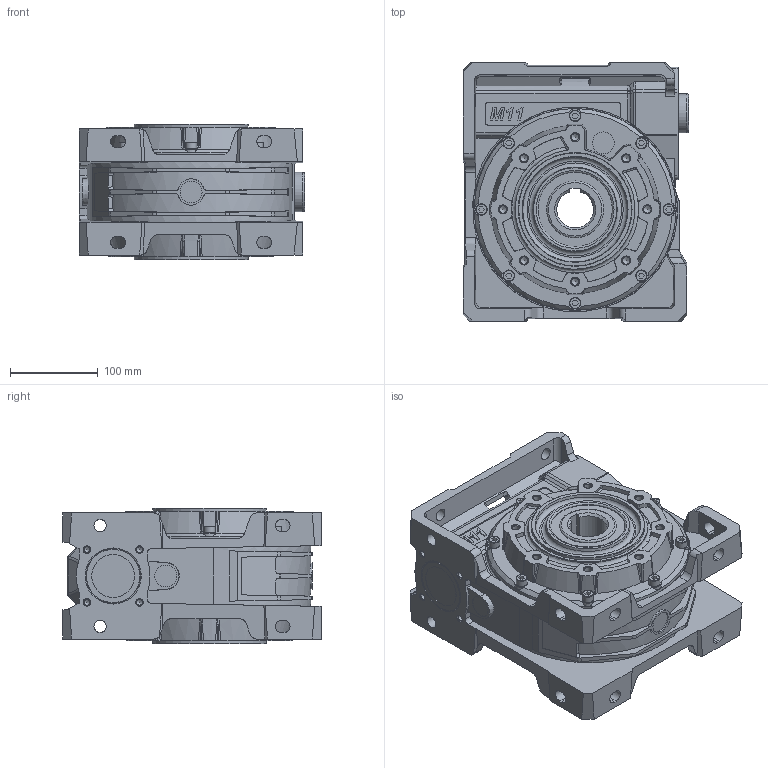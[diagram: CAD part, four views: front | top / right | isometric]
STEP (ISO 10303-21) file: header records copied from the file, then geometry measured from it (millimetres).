
FILE_DESCRIPTION( ( 'Unknown' ), '1' );
FILE_NAME( 'E:/services/configuratordownloads/customers/HYDROMEC/VQM/download/E5E1F4DD88639BDBD1EBD04D15D9E39D/STEP/E5E1F4DD88639BDBD1EBD04D15D9E39D.3d.stp', 'Unknown', ( 'Unknown' ), ( 'Unknown' ), 'PSStep 10.1', 'Unknown', ' ' );
FILE_SCHEMA( ( 'AUTOMOTIVE_DESIGN { 1 0 10303 214 1 1 1 1 }' ) );
Length unit declared in the file: millimetre
Products named in the file (1): M118800
Bounding box: 257 x 295 x 155 mm (x, y, z)
Volume: 7281360 mm3; surface area: 446450.5 mm2
Topology: 1 solids, 9 shells, 1100 faces, 2979 edges, 1952 vertices
Faces by surface type: plane 516, cylinder 210, cone 178, bspline 142, torus 28, extrusion 22, sphere 4
Full cylindrical faces by diameter (mm): 4.917 x12, 6.647 x8, 8 x8, 8.376 x32, 9 x8, 13 x8, 14 x6, 25 x4, 45 x1, 49 x1, 61 x1, 62 x1, 65 x2, 75 x1, 85 x2, 130 x2
Entity records: 50795 total; most frequent: CARTESIAN_POINT 16557, ORIENTED_EDGE 5382, DIRECTION 4782, EDGE_CURVE 2691, VERTEX_POINT 1874, AXIS2_PLACEMENT_3D 1710, EDGE_LOOP 1389, VECTOR 1362
